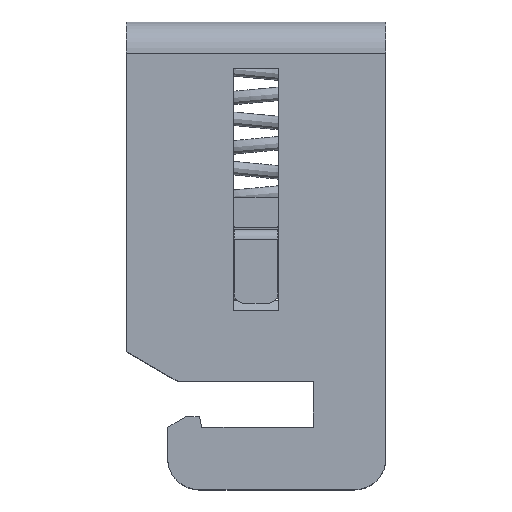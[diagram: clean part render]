
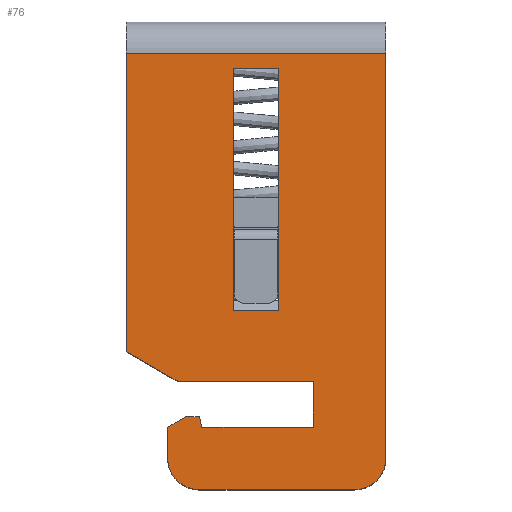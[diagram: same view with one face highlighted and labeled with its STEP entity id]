
A CAD part, top view. The second image highlights one B-rep face of the part: STEP entity #76.
In plain terms, the highlighted planar face has unit normal (0, 0, 1).
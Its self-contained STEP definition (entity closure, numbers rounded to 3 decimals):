
#76=ADVANCED_FACE('',(#645,#647),#649,.F.);
#645=FACE_BOUND('',#646,.T.);
#646=EDGE_LOOP('',(#8902,#8903,#8904,#8905,#8906,#8907,#8908,#8909,#8910,#8911,#8912,
#8913,#8914,#8915));
#647=FACE_BOUND('',#648,.T.);
#648=EDGE_LOOP('',(#8916,#8917,#8918,#8919));
#649=PLANE('',#650);
#650=AXIS2_PLACEMENT_3D('',#651,#652,#653);
#651=CARTESIAN_POINT('',(0.,107.644,23.));
#652=DIRECTION('',(0.,0.,-1.));
#653=DIRECTION('',(1.,0.,0.));
#8902=ORIENTED_EDGE('',*,*,#11227,.F.);
#8903=ORIENTED_EDGE('',*,*,#11228,.F.);
#8904=ORIENTED_EDGE('',*,*,#11229,.F.);
#8905=ORIENTED_EDGE('',*,*,#11230,.F.);
#8906=ORIENTED_EDGE('',*,*,#11231,.T.);
#8907=ORIENTED_EDGE('',*,*,#11232,.F.);
#8908=ORIENTED_EDGE('',*,*,#11233,.T.);
#8909=ORIENTED_EDGE('',*,*,#11234,.T.);
#8910=ORIENTED_EDGE('',*,*,#11235,.T.);
#8911=ORIENTED_EDGE('',*,*,#11236,.T.);
#8912=ORIENTED_EDGE('',*,*,#11237,.T.);
#8913=ORIENTED_EDGE('',*,*,#11238,.T.);
#8914=ORIENTED_EDGE('',*,*,#11239,.T.);
#8915=ORIENTED_EDGE('',*,*,#11240,.T.);
#8916=ORIENTED_EDGE('',*,*,#11147,.T.);
#8917=ORIENTED_EDGE('',*,*,#11211,.T.);
#8918=ORIENTED_EDGE('',*,*,#11241,.T.);
#8919=ORIENTED_EDGE('',*,*,#11191,.T.);
#11147=EDGE_CURVE('',#12353,#12351,#12354,.T.);
#11191=EDGE_CURVE('',#12428,#12353,#12429,.T.);
#11211=EDGE_CURVE('',#12351,#12464,#12466,.T.);
#11227=EDGE_CURVE('',#12496,#12497,#12498,.F.);
#11228=EDGE_CURVE('',#12499,#12496,#12500,.T.);
#11229=EDGE_CURVE('',#12501,#12499,#12502,.F.);
#11230=EDGE_CURVE('',#12503,#12501,#12504,.T.);
#11231=EDGE_CURVE('',#12503,#12505,#12506,.T.);
#11232=EDGE_CURVE('',#12507,#12505,#12508,.T.);
#11233=EDGE_CURVE('',#12507,#12509,#12510,.T.);
#11234=EDGE_CURVE('',#12509,#12511,#12512,.T.);
#11235=EDGE_CURVE('',#12511,#12513,#12514,.T.);
#11236=EDGE_CURVE('',#12513,#12515,#12516,.T.);
#11237=EDGE_CURVE('',#12515,#12517,#12518,.T.);
#11238=EDGE_CURVE('',#12517,#12519,#12520,.T.);
#11239=EDGE_CURVE('',#12519,#12521,#12522,.T.);
#11240=EDGE_CURVE('',#12521,#12497,#12523,.T.);
#11241=EDGE_CURVE('',#12464,#12428,#12524,.T.);
#12351=VERTEX_POINT('',#14339);
#12353=VERTEX_POINT('',#14343);
#12354=LINE('',#14344,#14345);
#12428=VERTEX_POINT('',#14517);
#12429=LINE('',#14518,#14519);
#12464=VERTEX_POINT('',#14593);
#12466=LINE('',#14597,#14598);
#12496=VERTEX_POINT('',#14661);
#12497=VERTEX_POINT('',#14662);
#12498=CIRCLE('',#14663,3.);
#12499=VERTEX_POINT('',#14667);
#12500=LINE('',#14668,#14669);
#12501=VERTEX_POINT('',#14671);
#12502=CIRCLE('',#14672,3.);
#12503=VERTEX_POINT('',#14676);
#12504=LINE('',#14677,#14678);
#12505=VERTEX_POINT('',#14680);
#12506=LINE('',#14681,#14682);
#12507=VERTEX_POINT('',#14684);
#12508=LINE('',#14685,#14686);
#12509=VERTEX_POINT('',#14688);
#12510=LINE('',#14689,#14690);
#12511=VERTEX_POINT('',#14692);
#12512=LINE('',#14693,#14694);
#12513=VERTEX_POINT('',#14696);
#12514=LINE('',#14697,#14698);
#12515=VERTEX_POINT('',#14700);
#12516=LINE('',#14701,#14702);
#12517=VERTEX_POINT('',#14704);
#12518=LINE('',#14705,#14706);
#12519=VERTEX_POINT('',#14708);
#12520=LINE('',#14709,#14710);
#12521=VERTEX_POINT('',#14712);
#12522=LINE('',#14713,#14714);
#12523=LINE('',#14716,#14717);
#12524=LINE('',#14719,#14720);
#14339=CARTESIAN_POINT('',(10.3,17.2,23.));
#14343=CARTESIAN_POINT('',(14.7,17.2,23.));
#14344=CARTESIAN_POINT('',(14.7,17.2,23.));
#14345=VECTOR('',#14346,1.);
#14346=DIRECTION('',(-1.,0.,0.));
#14517=CARTESIAN_POINT('',(14.7,40.5,23.));
#14518=CARTESIAN_POINT('',(14.7,40.5,23.));
#14519=VECTOR('',#14520,1.);
#14520=DIRECTION('',(0.,-1.,0.));
#14593=CARTESIAN_POINT('',(10.3,40.5,23.));
#14597=CARTESIAN_POINT('',(10.3,17.2,23.));
#14598=VECTOR('',#14599,1.);
#14599=DIRECTION('',(0.,1.,0.));
#14661=CARTESIAN_POINT('',(7.,0.,23.));
#14662=CARTESIAN_POINT('',(4.,3.,23.));
#14663=AXIS2_PLACEMENT_3D('',#14664,#14665,#14666);
#14664=CARTESIAN_POINT('',(7.,3.,23.));
#14665=DIRECTION('',(0.,0.,1.));
#14666=DIRECTION('',(-1.,0.,0.));
#14667=CARTESIAN_POINT('',(22.,0.,23.));
#14668=CARTESIAN_POINT('',(22.,0.,23.));
#14669=VECTOR('',#14670,1.);
#14670=DIRECTION('',(-1.,0.,0.));
#14671=CARTESIAN_POINT('',(25.,3.,23.));
#14672=AXIS2_PLACEMENT_3D('',#14673,#14674,#14675);
#14673=CARTESIAN_POINT('',(22.,3.,23.));
#14674=DIRECTION('',(0.,0.,1.));
#14675=DIRECTION('',(0.,-1.,0.));
#14676=CARTESIAN_POINT('',(25.,42.,23.));
#14677=CARTESIAN_POINT('',(25.,42.,23.));
#14678=VECTOR('',#14679,1.);
#14679=DIRECTION('',(0.,-1.,0.));
#14680=CARTESIAN_POINT('',(0.,42.,23.));
#14681=CARTESIAN_POINT('',(25.,42.,23.));
#14682=VECTOR('',#14683,1.);
#14683=DIRECTION('',(-1.,0.,0.));
#14684=CARTESIAN_POINT('',(0.,13.287,23.));
#14685=CARTESIAN_POINT('',(0.,13.287,23.));
#14686=VECTOR('',#14687,1.);
#14687=DIRECTION('',(0.,1.,0.));
#14688=CARTESIAN_POINT('',(5.,10.4,23.));
#14689=CARTESIAN_POINT('',(0.,13.287,23.));
#14690=VECTOR('',#14691,1.);
#14691=DIRECTION('',(0.866,-0.5,0.));
#14692=CARTESIAN_POINT('',(18.,10.4,23.));
#14693=CARTESIAN_POINT('',(5.,10.4,23.));
#14694=VECTOR('',#14695,1.);
#14695=DIRECTION('',(1.,0.,0.));
#14696=CARTESIAN_POINT('',(18.,6.,23.));
#14697=CARTESIAN_POINT('',(18.,10.4,23.));
#14698=VECTOR('',#14699,1.);
#14699=DIRECTION('',(0.,-1.,0.));
#14700=CARTESIAN_POINT('',(7.3,6.,23.));
#14701=CARTESIAN_POINT('',(18.,6.,23.));
#14702=VECTOR('',#14703,1.);
#14703=DIRECTION('',(-1.,0.,0.));
#14704=CARTESIAN_POINT('',(7.032,7.,23.));
#14705=CARTESIAN_POINT('',(7.3,6.,23.));
#14706=VECTOR('',#14707,1.);
#14707=DIRECTION('',(-0.259,0.966,0.));
#14708=CARTESIAN_POINT('',(5.732,7.,23.));
#14709=CARTESIAN_POINT('',(7.032,7.,23.));
#14710=VECTOR('',#14711,1.);
#14711=DIRECTION('',(-1.,0.,0.));
#14712=CARTESIAN_POINT('',(4.,6.,23.));
#14713=CARTESIAN_POINT('',(5.732,7.,23.));
#14714=VECTOR('',#14715,1.);
#14715=DIRECTION('',(-0.866,-0.5,0.));
#14716=CARTESIAN_POINT('',(4.,6.,23.));
#14717=VECTOR('',#14718,1.);
#14718=DIRECTION('',(0.,-1.,0.));
#14719=CARTESIAN_POINT('',(10.3,40.5,23.));
#14720=VECTOR('',#14721,1.);
#14721=DIRECTION('',(1.,0.,0.));
